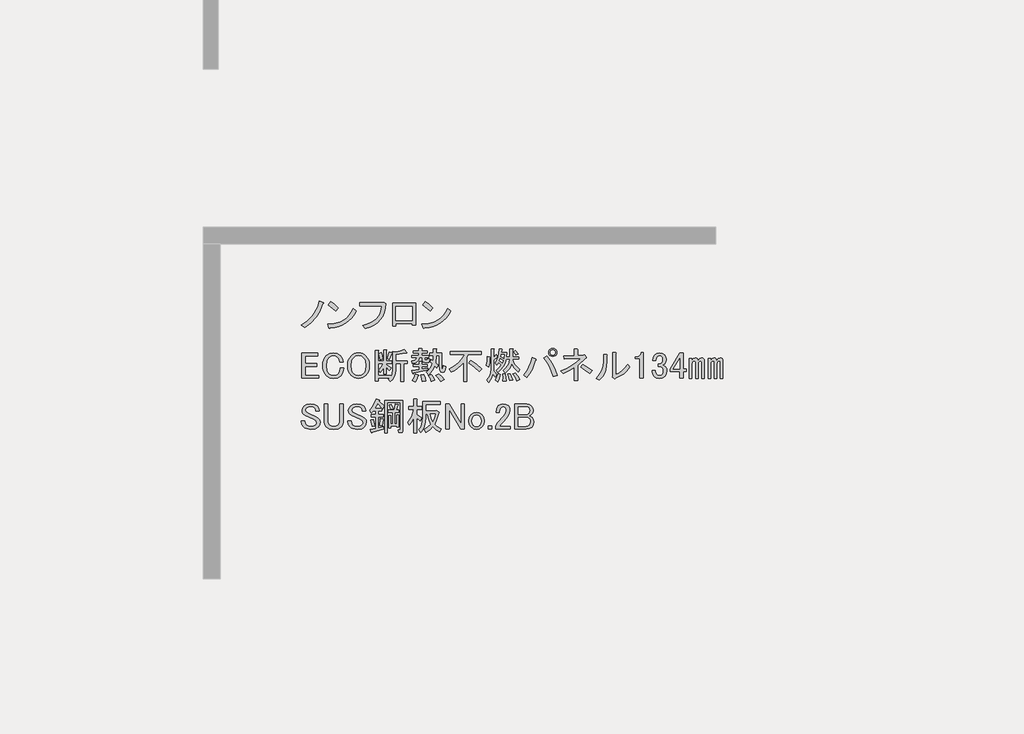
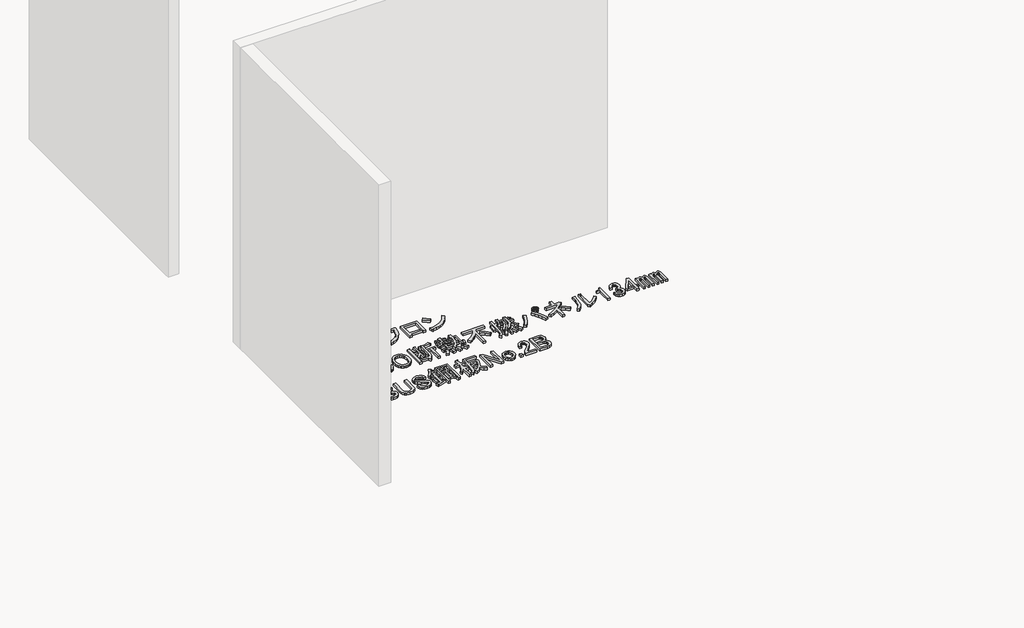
# One storey, part 56 of 117: 1 proxy.
"""IFC4 building model written with IfcOpenShell, lengths in millimetres."""

from ifc_helpers import new_model, si_unit, frame, origin, place, context, project, spatial, polyline, outline, extrude, element, save

model = new_model("IFC4")

# Units and contexts
model_context = context("Model", 3, world=origin())
ifc_project = project(units=[si_unit("LENGTHUNIT", "METRE", prefix="MILLI")], contexts=[model_context])

# Site, building, storey
site = spatial("IfcSite", under=ifc_project)
building = spatial("IfcBuilding", under=site)
storey = spatial("IfcBuildingStorey", under=building, Name="レベル 1", Elevation=500.0)

# Proxy
placement = place(None, origin())
element("IfcBuildingElementProxy", 1, Name="200㎜\u3000MS Pゴシック", ObjectType="200㎜\u3000MS Pゴシック", at=placement, inside=storey, context=model_context, shape_type="SweptSolid", body=[
    extrude(outline(polyline([(40940.1706985, -12603.5496882), (40914.5952502, -12663.3215225), (40886.146156, -12709.2998566), (40844.4782907, -12754.7034615), (40795.3389462, -12792.060858), (40767.7519457, -12770.2211493), (40815.4544673, -12739.7605029), (40855.1107805, -12701.2536481), (40872.4963381, -12677.3305462), (40887.8703435, -12649.2406577), (40901.2327969, -12616.9839827), (40912.5836981, -12580.5605212), (40943.6190736, -12594.3540214), (40946.7800841, -12598.9518548), (40940.1706985, -12603.5496882)])), frame((0.0, 0.0, 500.0), z_axis=(0.0, 0.0, 1.0), x_axis=(1.0, 0.0, 0.0)), (0.0, 0.0, 1.0), 25.0),
    extrude(outline(polyline([(41039.8977052, -12658.7236891), (40981.2753292, -12611.5958967), (41000.8161212, -12587.4572713), (41028.1157571, -12607.2854279), (41061.7374138, -12636.8839804), (41039.8977052, -12658.7236891)])), frame((0.0, 0.0, 500.0), z_axis=(0.0, 0.0, 1.0), x_axis=(1.0, 0.0, 0.0)), (0.0, 0.0, 1.0), 25.0),
    extrude(outline(polyline([(41201.9713328, -12658.7236891), (41185.447869, -12688.465924), (41166.3381239, -12714.4724192), (41144.6420975, -12736.7431748), (41120.3597898, -12755.2781907), (41093.4912008, -12770.077467), (41064.0363306, -12781.1410036), (41031.995179, -12788.4688006), (40997.3677461, -12792.060858), (40991.6204544, -12800.1070664), (40985.8731626, -12794.3597747), (40976.6774958, -12764.4738575), (41012.5082679, -12761.7977748), (41045.2857912, -12755.4937141), (41075.0100658, -12745.5616756), (41101.6810916, -12732.0016591), (41125.2988687, -12714.8136646), (41145.863397, -12693.9976923), (41163.3746766, -12669.553742), (41177.8327074, -12641.4818138), (41201.9713328, -12658.7236891)])), frame((0.0, 0.0, 500.0), z_axis=(0.0, 0.0, 1.0), x_axis=(1.0, 0.0, 0.0)), (0.0, 0.0, 1.0), 25.0),
    extrude(outline(polyline([(41252.7314136, -12773.6695243), (41286.514713, -12763.9889298), (41316.0234641, -12751.6142922), (41341.257667, -12736.5456116), (41362.2173217, -12718.782888), (41378.902428, -12698.3261214), (41391.3129862, -12675.1753118), (41399.4489961, -12649.3304591), (41403.3104577, -12620.7915635), (41230.8917049, -12620.7915635), (41230.8917049, -12595.5034798), (41405.6093744, -12595.5034798), (41421.7017914, -12592.0551047), (41434.3458332, -12603.5496882), (41430.825617, -12640.0449909), (41422.5638851, -12673.0919185), (41409.5606375, -12702.6904711), (41391.8158742, -12728.8406486), (41369.3295952, -12751.542451), (41342.1018005, -12770.7958784), (41310.1324901, -12786.6009308), (41273.421664, -12798.9576081), (41252.7314136, -12773.6695243)])), frame((0.0, 0.0, 500.0), z_axis=(0.0, 0.0, 1.0), x_axis=(1.0, 0.0, 0.0)), (0.0, 0.0, 1.0), 25.0),
    extrude(outline(polyline([(41667.455987, -12772.520066), (41641.0184449, -12772.520066), (41641.0184449, -12759.8760241), (41513.4285679, -12759.8760241), (41513.4285679, -12778.2673577), (41486.9910258, -12778.2673577), (41486.9910258, -12598.9518548), (41667.455987, -12598.9518548), (41667.455987, -12772.520066)]), holes=[polyline([(41513.4285679, -12624.2399386), (41513.4285679, -12734.5879404), (41641.0184449, -12734.5879404), (41641.0184449, -12624.2399386), (41513.4285679, -12624.2399386)])]), frame((0.0, 0.0, 500.0), z_axis=(0.0, 0.0, 1.0), x_axis=(1.0, 0.0, 0.0)), (0.0, 0.0, 1.0), 25.0),
    extrude(outline(polyline([(41943.5099049, -12658.7236891), (41926.9864411, -12688.465924), (41907.876696, -12714.4724192), (41886.1806696, -12736.7431748), (41861.8983619, -12755.2781907), (41835.0297729, -12770.077467), (41805.5749026, -12781.1410036), (41773.5337511, -12788.4688006), (41738.9063182, -12792.060858), (41733.1590264, -12800.1070664), (41727.4117347, -12794.3597747), (41718.2160679, -12764.4738575), (41754.0468399, -12761.7977748), (41786.8243633, -12755.4937141), (41816.5486378, -12745.5616756), (41843.2196637, -12732.0016591), (41866.8374407, -12714.8136646), (41887.4019691, -12693.9976923), (41904.9132486, -12669.553742), (41919.3712795, -12641.4818138), (41943.5099049, -12658.7236891)])), frame((0.0, 0.0, 500.0), z_axis=(0.0, 0.0, 1.0), x_axis=(1.0, 0.0, 0.0)), (0.0, 0.0, 1.0), 25.0),
    extrude(outline(polyline([(41781.4362772, -12658.7236891), (41722.8139013, -12611.5958967), (41742.3546933, -12587.4572713), (41769.6543291, -12607.2854279), (41803.2759859, -12636.8839804), (41781.4362772, -12658.7236891)])), frame((0.0, 0.0, 500.0), z_axis=(0.0, 0.0, 1.0), x_axis=(1.0, 0.0, 0.0)), (0.0, 0.0, 1.0), 25.0),
    extrude(outline(polyline([(40773.4992375, -12992.0551047), (40899.9396562, -12992.0551047), (40899.9396562, -13013.8948134), (40799.9367796, -13013.8948134), (40799.9367796, -13074.816106), (40893.0429061, -13074.816106), (40893.0429061, -13096.6558147), (40799.9367796, -13096.6558147), (40799.9367796, -13166.7727742), (40905.686948, -13166.7727742), (40905.686948, -13188.6124829), (40773.4992375, -13188.6124829), (40773.4992375, -12992.0551047)])), frame((0.0, 0.0, 500.0), z_axis=(0.0, 0.0, 1.0), x_axis=(1.0, 0.0, 0.0)), (0.0, 0.0, 1.0), 25.0),
    extrude(outline(polyline([(40937.7798252, -13090.908523), (40939.5758538, -13066.985421), (40944.9639399, -13045.7922827), (40953.9440832, -13027.3291079), (40966.516284, -13011.5958967), (40991.5170031, -12995.2161152), (41022.8397432, -12989.756188), (41053.5877541, -12994.641386), (41076.8642858, -13009.29698), (41092.6693381, -13032.8608762), (41098.7039944, -13062.1720642), (41071.116994, -13062.1720642), (41066.231796, -13040.9070847), (41056.1740354, -13025.3893969), (41040.9437123, -13015.0442717), (41022.8397432, -13011.5958967), (41003.2989512, -13015.6190009), (40986.0570759, -13027.6883136), (40977.0050914, -13039.3984206), (40970.5393882, -13053.8384911), (40965.3668256, -13090.908523), (40970.5393882, -13127.9785548), (40977.0050914, -13142.4186254), (40986.0570759, -13154.1287323), (41002.7242221, -13165.3359513), (41022.8397432, -13169.0716909), (41043.242629, -13165.9106804), (41058.4729521, -13156.427649), (41070.5422648, -13136.8868571), (41074.5653691, -13110.449315), (41102.1523695, -13110.449315), (41095.8303486, -13145.2204301), (41088.7899162, -13159.3731361), (41079.1632025, -13171.3706076), (41068.3151893, -13179.9197041), (41055.3119417, -13186.0262016), (41022.8397432, -13190.9113996), (40991.5170031, -13185.4514724), (40966.516284, -13169.0716909), (40953.9440832, -13153.4103209), (40944.9639399, -13135.1626695), (40939.5758538, -13114.3287369), (40937.7798252, -13090.908523)])), frame((0.0, 0.0, 500.0), z_axis=(0.0, 0.0, 1.0), x_axis=(1.0, 0.0, 0.0)), (0.0, 0.0, 1.0), 25.0),
    extrude(outline(polyline([(41133.1417667, -13089.7590646), (41134.8659542, -13066.9135799), (41140.0385168, -13046.6543764), (41148.6594544, -13028.9814543), (41160.7287671, -13013.8948134), (41173.4446501, -13003.3341648), (41187.4536738, -12995.7908443), (41202.7558381, -12991.2648521), (41219.3511431, -12989.756188), (41235.946448, -12991.2648521), (41251.2486123, -12995.7908443), (41265.257636, -13003.3341648), (41277.973519, -13013.8948134), (41290.0428317, -13028.9814543), (41298.6637694, -13046.6543764), (41303.836332, -13066.9135799), (41305.5605195, -13089.7590646), (41303.836332, -13112.6045494), (41298.6637694, -13132.8637528), (41290.0428317, -13150.536675), (41277.973519, -13165.6233159), (41265.257636, -13176.1839645), (41251.2486123, -13183.7272849), (41235.946448, -13188.2532772), (41219.3511431, -13189.7619413), (41202.7558381, -13188.2532772), (41187.4536738, -13183.7272849), (41173.4446501, -13176.1839645), (41160.7287671, -13165.6233159), (41148.6594544, -13150.536675), (41140.0385168, -13132.8637528), (41134.8659542, -13112.6045494), (41133.1417667, -13089.7590646)]), holes=[polyline([(41219.3511431, -13011.5958967), (41198.6608927, -13015.9063655), (41180.2695591, -13028.837772), (41171.7204626, -13039.9731498), (41165.6139651, -13053.8384911), (41160.7287671, -13089.7590646), (41165.6139651, -13125.6796381), (41171.7204626, -13139.5449795), (41180.2695591, -13150.6803573), (41198.6608927, -13163.6117637), (41219.3511431, -13167.9222326), (41240.0413934, -13163.6117637), (41258.432727, -13150.6803573), (41266.9818235, -13139.5449795), (41273.088321, -13125.6796381), (41277.973519, -13089.7590646), (41273.088321, -13053.8384911), (41266.9818235, -13039.9731498), (41258.432727, -13028.837772), (41240.0413934, -13015.9063655), (41219.3511431, -13011.5958967)])]), frame((0.0, 0.0, 500.0), z_axis=(0.0, 0.0, 1.0), x_axis=(1.0, 0.0, 0.0)), (0.0, 0.0, 1.0), 25.0),
    extrude(outline(polyline([(41444.3691101, -13035.7345221), (41461.6109854, -12982.8594379), (41482.3012357, -12988.6067296), (41484.0254232, -12991.7677401), (41480.002319, -12994.3540214), (41462.7604437, -13042.6312722), (41444.3691101, -13035.7345221)])), frame((0.0, 0.0, 500.0), z_axis=(0.0, 0.0, 1.0), x_axis=(1.0, 0.0, 0.0)), (0.0, 0.0, 1.0), 25.0),
    extrude(outline(polyline([(41598.3965292, -12987.4572713), (41596.6723417, -12992.0551047), (41589.2008624, -12989.756188), (41512.1871528, -13002.4002299), (41512.1871528, -13051.826939), (41604.143821, -13051.826939), (41604.143821, -13073.6666477), (41573.1084455, -13073.6666477), (41573.1084455, -13213.9005666), (41550.1192785, -13213.9005666), (41550.1192785, -13073.6666477), (41512.1871528, -13073.6666477), (41512.1871528, -13123.0933568), (41509.6008716, -13150.8958807), (41501.8420277, -13175.6810764), (41488.9106212, -13197.448944), (41470.8066522, -13216.1994833), (41453.5647769, -13196.6586914), (41463.9099021, -13187.4630245), (41374.2521506, -13187.4630245), (41374.2521506, -13209.3027332), (41351.2629836, -13209.3027332), (41351.2629836, -12970.215396), (41373.1026922, -12970.215396), (41377.9878902, -12972.5143127), (41374.2521506, -12977.1121461), (41374.2521506, -13052.9763974), (41416.7821096, -13052.9763974), (41416.7821096, -12965.6175626), (41435.1734433, -12965.6175626), (41440.0586413, -12967.9164793), (41436.3229016, -12972.5143127), (41436.3229016, -13052.9763974), (41480.002319, -13052.9763974), (41480.002319, -13071.367731), (41436.3229016, -13071.367731), (41436.3229016, -13080.5633978), (41476.5539439, -13107.0009399), (41462.7604437, -13128.8406486), (41436.3229016, -13102.4031065), (41436.3229016, -13155.2781907), (41416.7821096, -13155.2781907), (41416.7821096, -13107.0009399), (41403.5633386, -13126.8290965), (41389.1951092, -13142.6341488), (41376.5510673, -13124.2428152), (41398.390776, -13100.1041898), (41415.6326513, -13071.367731), (41374.2521506, -13071.367731), (41374.2521506, -13165.6233159), (41471.9561105, -13165.6233159), (41471.9561105, -13179.4168161), (41484.887517, -13155.2781907), (41489.1979858, -13121.9438985), (41489.1979858, -12977.1121461), (41511.0376945, -12982.8594379), (41547.2456326, -12975.3879586), (41577.7062789, -12962.1691875), (41598.3965292, -12987.4572713)])), frame((0.0, 0.0, 500.0), z_axis=(0.0, 0.0, 1.0), x_axis=(1.0, 0.0, 0.0)), (0.0, 0.0, 1.0), 25.0),
    extrude(outline(polyline([(41390.3445675, -13043.7807305), (41377.7005257, -12993.2045631), (41397.2413176, -12986.3078129), (41405.0001615, -13010.4464383), (41409.8853595, -13036.8839804), (41390.3445675, -13043.7807305)])), frame((0.0, 0.0, 500.0), z_axis=(0.0, 0.0, 1.0), x_axis=(1.0, 0.0, 0.0)), (0.0, 0.0, 1.0), 25.0),
    extrude(outline(polyline([(41734.0326148, -13159.8760241), (41744.0903754, -13187.17566), (41748.9755734, -13209.3027332), (41720.2391146, -13215.050025), (41717.6528333, -13193.4976809), (41709.8939894, -13163.3243992), (41734.0326148, -13159.8760241)])), frame((0.0, 0.0, 500.0), z_axis=(0.0, 0.0, 1.0), x_axis=(1.0, 0.0, 0.0)), (0.0, 0.0, 1.0), 25.0),
    extrude(outline(polyline([(41790.356074, -13212.7511083), (41782.022501, -13188.0377537), (41768.5163654, -13166.7727742), (41789.2066157, -13158.7265657), (41806.1611264, -13180.2789098), (41817.9430745, -13203.5554415), (41790.356074, -13212.7511083)])), frame((0.0, 0.0, 500.0), z_axis=(0.0, 0.0, 1.0), x_axis=(1.0, 0.0, 0.0)), (0.0, 0.0, 1.0), 25.0),
    extrude(outline(polyline([(41689.2037391, -13164.4738575), (41692.6521141, -13169.3590555), (41686.9048224, -13172.520066), (41677.1344264, -13198.0955143), (41666.214572, -13217.3489417), (41643.225405, -13205.8543582), (41655.8694469, -13182.290462), (41666.214572, -13155.2781907), (41689.2037391, -13164.4738575)])), frame((0.0, 0.0, 500.0), z_axis=(0.0, 0.0, 1.0), x_axis=(1.0, 0.0, 0.0)), (0.0, 0.0, 1.0), 25.0),
    extrude(outline(polyline([(41721.3885729, -13027.6883136), (41696.1004892, -13027.6883136), (41691.5026558, -13045.1457123), (41681.1575306, -13058.4363245), (41665.0651137, -13067.5601502), (41643.225405, -13072.5171893), (41638.6275716, -13052.9763974), (41663.9156553, -13044.3554597), (41671.3871346, -13037.0276627), (41675.4102388, -13027.6883136), (41639.7770299, -13027.6883136), (41639.7770299, -13009.29698), (41693.8015725, -13009.29698), (41693.8015725, -12992.0551047), (41650.1221551, -12992.0551047), (41650.1221551, -12973.6637711), (41693.8015725, -12973.6637711), (41693.8015725, -12955.2724374), (41715.6412812, -12955.2724374), (41720.5264792, -12957.5713541), (41716.7907395, -12962.1691875), (41716.7907395, -12973.6637711), (41759.3206985, -12973.6637711), (41759.3206985, -12992.0551047), (41716.7907395, -12992.0551047), (41716.7907395, -13009.29698), (41769.6658237, -13009.29698), (41769.6658237, -13027.6883136), (41740.9293649, -13027.6883136), (41740.9293649, -13040.3323555), (41742.3661878, -13045.5049181), (41746.6766567, -13047.2291056), (41757.0217818, -13047.2291056), (41760.7575215, -13044.0680951), (41760.4701569, -13034.5850637), (41780.0109489, -13036.8839804), (41777.137303, -13058.4363245), (41771.8210581, -13063.8244106), (41763.9185319, -13065.6204392), (41739.7799066, -13065.6204392), (41725.9864063, -13060.7352412), (41721.3885729, -13046.0796472), (41721.3885729, -13027.6883136)])), frame((0.0, 0.0, 500.0), z_axis=(0.0, 0.0, 1.0), x_axis=(1.0, 0.0, 0.0)), (0.0, 0.0, 1.0), 25.0),
    extrude(outline(polyline([(41852.4268251, -13010.4464383), (41830.5871164, -13010.4464383), (41825.989283, -13067.9193559), (41845.5300749, -13086.3106896), (41835.1849498, -13108.1503983), (41819.0925328, -13092.0579813), (41799.8391054, -13129.7027424), (41769.6658237, -13162.1749408), (41752.4239484, -13141.4846905), (41767.5105893, -13129.5590601), (41780.585678, -13114.4724192), (41791.6492147, -13096.2247679), (41800.7011992, -13074.816106), (41783.4593239, -13059.8731475), (41791.5055324, -13042.6312722), (41805.2990326, -13052.9763974), (41807.5979493, -13010.4464383), (41780.0109489, -13010.4464383), (41780.0109489, -12992.0551047), (41807.5979493, -12992.0551047), (41807.5979493, -12957.5713541), (41829.437658, -12957.5713541), (41834.322856, -12959.8702708), (41830.5871164, -12964.4681043), (41830.5871164, -12992.0551047), (41871.967617, -12992.0551047), (41871.967617, -13088.6096063), (41875.4159921, -13112.7482317), (41878.6488437, -13114.7597838), (41881.4506484, -13111.5987733), (41885.7611173, -13089.7590646), (41905.3019092, -13096.6558147), (41900.775917, -13123.4525626), (41892.945232, -13139.4731384), (41881.8098542, -13144.7175421), (41867.3697836, -13139.1857738), (41860.8322393, -13131.8579768), (41856.1625647, -13120.219711), (41852.4268251, -13084.0117729), (41852.4268251, -13010.4464383)])), frame((0.0, 0.0, 500.0), z_axis=(0.0, 0.0, 1.0), x_axis=(1.0, 0.0, 0.0)), (0.0, 0.0, 1.0), 25.0),
    extrude(outline(polyline([(41651.2716134, -13149.5308989), (41649.2600613, -13154.4160969), (41645.5243217, -13152.979274), (41639.7770299, -13128.8406486), (41694.9510308, -13120.7944401), (41694.9510308, -13097.8052731), (41651.2716134, -13097.8052731), (41651.2716134, -13079.4139395), (41694.9510308, -13079.4139395), (41694.9510308, -13056.4247724), (41713.3423645, -13056.4247724), (41718.2275625, -13058.7236891), (41714.4918228, -13063.3215225), (41714.4918228, -13079.4139395), (41759.3206985, -13079.4139395), (41759.3206985, -13097.8052731), (41714.4918228, -13097.8052731), (41714.4918228, -13117.3460651), (41765.0679903, -13108.1503983), (41765.0679903, -13124.2428152), (41651.2716134, -13149.5308989)])), frame((0.0, 0.0, 500.0), z_axis=(0.0, 0.0, 1.0), x_axis=(1.0, 0.0, 0.0)), (0.0, 0.0, 1.0), 25.0),
    extrude(outline(polyline([(41848.97845, -13154.1287323), (41873.6918046, -13175.3937119), (41892.6578674, -13200.1070664), (41866.2203253, -13215.050025), (41846.9668979, -13185.4514724), (41828.2881997, -13165.6233159), (41848.97845, -13154.1287323)])), frame((0.0, 0.0, 500.0), z_axis=(0.0, 0.0, 1.0), x_axis=(1.0, 0.0, 0.0)), (0.0, 0.0, 1.0), 25.0),
    extrude(outline(polyline([(42167.3784135, -13138.0363154), (42128.2968295, -13099.8168252), (42086.9163289, -13070.2182726), (42103.0087458, -13049.5280223), (42146.6881632, -13077.6897519), (42188.0686638, -13116.1966067), (42167.3784135, -13138.0363154)])), frame((0.0, 0.0, 500.0), z_axis=(0.0, 0.0, 1.0), x_axis=(1.0, 0.0, 0.0)), (0.0, 0.0, 1.0), 25.0),
    extrude(outline(polyline([(41940.9351182, -12977.1121461), (42182.3213721, -12977.1121461), (42182.3213721, -13002.4002299), (42082.3184955, -13002.4002299), (42071.9733703, -13026.5388553), (42071.9733703, -13212.7511083), (42045.5358282, -13212.7511083), (42045.5358282, -13065.6204392), (42024.7018956, -13088.8969709), (42001.2816816, -13109.2998566), (41975.2751864, -13126.8290965), (41946.6824099, -13141.4846905), (41930.589993, -13115.0471484), (41970.174465, -13094.6442626), (42003.8679629, -13069.0688143), (42031.6704868, -13038.3208034), (42053.5820367, -13002.4002299), (41940.9351182, -13002.4002299), (41940.9351182, -12977.1121461)])), frame((0.0, 0.0, 500.0), z_axis=(0.0, 0.0, 1.0), x_axis=(1.0, 0.0, 0.0)), (0.0, 0.0, 1.0), 25.0),
    extrude(outline(polyline([(42354.7401249, -13211.6016499), (42355.3148541, -13184.5893787), (42352.4412082, -13156.427649), (42371.9820002, -13155.2781907), (42378.3040211, -13181.4283682), (42378.8787503, -13209.3027332), (42354.7401249, -13211.6016499)])), frame((0.0, 0.0, 500.0), z_axis=(0.0, 0.0, 1.0), x_axis=(1.0, 0.0, 0.0)), (0.0, 0.0, 1.0), 25.0),
    extrude(outline(polyline([(42335.1993329, -13159.8760241), (42326.5783953, -13190.3366704), (42312.2101659, -13217.3489417), (42292.6693739, -13204.7048998), (42306.7502387, -13179.9915453), (42316.8079993, -13151.8298156), (42335.1993329, -13159.8760241)])), frame((0.0, 0.0, 500.0), z_axis=(0.0, 0.0, 1.0), x_axis=(1.0, 0.0, 0.0)), (0.0, 0.0, 1.0), 25.0),
    extrude(outline(polyline([(42250.1394149, -13021.9410219), (42254.7372483, -13024.2399386), (42250.1394149, -13028.837772), (42248.9899565, -13068.4940851), (42243.2426647, -13102.4031065), (42224.8513311, -13089.7590646), (42230.5986229, -13055.2753141), (42231.7480812, -13018.4926468), (42250.1394149, -13021.9410219)])), frame((0.0, 0.0, 500.0), z_axis=(0.0, 0.0, 1.0), x_axis=(1.0, 0.0, 0.0)), (0.0, 0.0, 1.0), 25.0),
    extrude(outline(polyline([(42301.8650407, -13003.5496882), (42311.0607075, -13020.7915635), (42312.4975305, -13026.8262199), (42307.6123325, -13026.5388553), (42281.1747904, -13047.2291056), (42281.1747904, -13131.1395653), (42294.9682906, -13143.4962426), (42306.4628741, -13159.8760241), (42293.8188322, -13180.5662744), (42275.4274986, -13155.2781907), (42263.6455505, -13191.1987642), (42242.0932064, -13220.7973168), (42227.1502478, -13202.4059831), (42242.2368887, -13183.6554438), (42253.0130607, -13163.0370346), (42259.478764, -13140.5507556), (42261.6339984, -13116.1966067), (42261.6339984, -12958.7208125), (42280.025332, -12958.7208125), (42284.91053, -12961.0197292), (42281.1747904, -12965.6175626), (42281.1747904, -13024.2399386), (42301.8650407, -13003.5496882)])), frame((0.0, 0.0, 500.0), z_axis=(0.0, 0.0, 1.0), x_axis=(1.0, 0.0, 0.0)), (0.0, 0.0, 1.0), 25.0),
    extrude(outline(polyline([(42452.4440848, -12972.5143127), (42474.2837935, -12996.6529381), (42457.0419182, -13008.1475216), (42450.4325327, -12996.6529381), (42437.5011262, -12982.8594379), (42452.4440848, -12972.5143127)])), frame((0.0, 0.0, 500.0), z_axis=(0.0, 0.0, 1.0), x_axis=(1.0, 0.0, 0.0)), (0.0, 0.0, 1.0), 25.0),
    extrude(outline(polyline([(42462.78921, -13209.3027332), (42449.5704389, -13181.1410036), (42432.9032928, -13156.427649), (42451.2946265, -13148.3814406), (42470.2606893, -13171.3706076), (42485.778377, -13198.9576081), (42462.78921, -13209.3027332)])), frame((0.0, 0.0, 500.0), z_axis=(0.0, 0.0, 1.0), x_axis=(1.0, 0.0, 0.0)), (0.0, 0.0, 1.0), 25.0),
    extrude(outline(polyline([(42413.3625008, -13154.1287323), (42431.7538345, -13203.5554415), (42407.6152091, -13208.1532749), (42393.8217089, -13157.5771074), (42413.3625008, -13154.1287323)])), frame((0.0, 0.0, 500.0), z_axis=(0.0, 0.0, 1.0), x_axis=(1.0, 0.0, 0.0)), (0.0, 0.0, 1.0), 25.0),
    extrude(outline(polyline([(42474.2837935, -13139.1857738), (42443.5357826, -13108.7251274), (42422.5581677, -13074.816106), (42414.1527535, -13096.9431793), (42402.7300111, -13116.1966067), (42388.2899405, -13132.5763882), (42370.8325418, -13146.0825239), (42357.0390416, -13127.6911902), (42377.8729742, -13108.7969686), (42393.2469797, -13087.7475125), (42403.161058, -13064.542822), (42407.6152091, -13039.1828971), (42378.8787503, -13039.1828971), (42370.904383, -13069.7872258), (42357.3264062, -13097.2305439), (42338.1448199, -13121.5128516), (42313.3596242, -13142.6341488), (42300.7155823, -13126.5417319), (42326.5783953, -13104.9893878), (42342.096083, -13084.0117729), (42320.2563743, -13064.4709809), (42306.4628741, -13085.1612312), (42292.6693739, -13070.2182726), (42305.0978923, -13051.1803687), (42314.7964472, -13026.2514907), (42321.7650384, -12995.4316386), (42326.0036661, -12958.7208125), (42346.6939164, -12961.0197292), (42350.1422915, -12963.6060105), (42344.3949997, -12966.767021), (42342.096083, -12985.1583546), (42385.7755004, -12985.1583546), (42382.3271253, -13020.7915635), (42407.6152091, -13020.7915635), (42407.6152091, -12958.7208125), (42429.4549178, -12958.7208125), (42434.3401158, -12961.0197292), (42430.6043761, -12965.6175626), (42430.6043761, -13020.7915635), (42480.0310853, -13020.7915635), (42480.0310853, -13039.1828971), (42430.6043761, -13039.1828971), (42437.1419205, -13060.9507647), (42448.7083452, -13081.4254916), (42465.3036501, -13100.6070778), (42486.9278354, -13118.4955234), (42474.2837935, -13139.1857738)]), holes=[polyline([(42350.1422915, -13069.0688143), (42357.0390416, -13049.5280223), (42331.7509579, -13033.4356054), (42326.0036661, -13050.6774807), (42350.1422915, -13069.0688143)]), polyline([(42339.7971663, -13003.5496882), (42336.3487913, -13019.6421052), (42361.636875, -13033.4356054), (42366.2347084, -13003.5496882), (42339.7971663, -13003.5496882)])]), frame((0.0, 0.0, 500.0), z_axis=(0.0, 0.0, 1.0), x_axis=(1.0, 0.0, 0.0)), (0.0, 0.0, 1.0), 25.0),
    extrude(outline(polyline([(42699.5776305, -13012.745355), (42726.230696, -13049.4561812), (42748.7169751, -13087.1727833), (42767.0364675, -13125.8951616), (42781.1891735, -13165.6233159), (42750.153798, -13175.968441), (42734.7079514, -13132.8637528), (42717.1068704, -13094.356898), (42697.3505549, -13060.4478766), (42675.4390051, -13031.1366887), (42699.5776305, -13012.745355)])), frame((0.0, 0.0, 500.0), z_axis=(0.0, 0.0, 1.0), x_axis=(1.0, 0.0, 0.0)), (0.0, 0.0, 1.0), 25.0),
    extrude(outline(polyline([(42612.2187958, -13039.1828971), (42616.2419, -13044.6428243), (42609.919879, -13049.5280223), (42597.9942486, -13084.9457078), (42582.9076078, -13118.782888), (42564.6599564, -13151.039563), (42543.2512946, -13181.7157328), (42516.8137525, -13164.4738575), (42540.018443, -13133.0074351), (42559.056347, -13099.5294606), (42573.9274644, -13064.039934), (42584.6317953, -13026.5388553), (42612.2187958, -13039.1828971)])), frame((0.0, 0.0, 500.0), z_axis=(0.0, 0.0, 1.0), x_axis=(1.0, 0.0, 0.0)), (0.0, 0.0, 1.0), 25.0),
    extrude(outline(polyline([(42745.5559646, -13018.4926468), (42732.9119227, -13016.1937301), (42722.5667975, -13009.29698), (42715.6700474, -12998.9518548), (42713.3711307, -12986.3078129), (42715.6700474, -12973.6637711), (42722.5667975, -12963.3186459), (42732.9119227, -12956.4218958), (42745.5559646, -12954.1229791), (42758.2000065, -12956.4218958), (42768.5451316, -12963.3186459), (42775.4418817, -12973.6637711), (42777.7407984, -12986.3078129), (42775.4418817, -12998.9518548), (42768.5451316, -13009.29698), (42758.2000065, -13016.1937301), (42745.5559646, -13018.4926468)]), holes=[polyline([(42745.5559646, -13006.9980633), (42753.8895376, -13005.5612403), (42760.4989232, -13001.2507715), (42764.809392, -12994.641386), (42766.2462149, -12986.3078129), (42764.809392, -12977.9742399), (42760.4989232, -12971.3648544), (42753.8895376, -12967.0543855), (42745.5559646, -12965.6175626), (42737.2223915, -12967.0543855), (42730.613006, -12971.3648544), (42726.3025372, -12977.9742399), (42724.8657143, -12986.3078129), (42726.3025372, -12994.641386), (42730.613006, -13001.2507715), (42737.2223915, -13005.5612403), (42745.5559646, -13006.9980633)])]), frame((0.0, 0.0, 500.0), z_axis=(0.0, 0.0, 1.0), x_axis=(1.0, 0.0, 0.0)), (0.0, 0.0, 1.0), 25.0),
    extrude(outline(polyline([(42989.2411352, -13008.1475216), (42996.1378853, -13005.8486049), (43008.7819272, -13023.0904802), (43009.9313856, -13029.1251366), (43004.1840938, -13031.1366887), (42940.9638844, -13087.4601479), (42940.9638844, -13208.1532749), (42914.5263423, -13208.1532749), (42914.5263423, -13105.8514816), (42874.2953, -13129.9901069), (42829.4664243, -13151.8298156), (42809.9256323, -13131.1395653), (42855.4729195, -13111.6706145), (42896.7097379, -13088.8969709), (42933.6360874, -13062.8186345), (42966.2519682, -13033.4356054), (42836.3631744, -13039.1828971), (42832.9147993, -13013.8948134), (42914.5263423, -13011.5958967), (42914.5263423, -12959.8702708), (42937.5155094, -12959.8702708), (42943.5501657, -12963.3186459), (42940.9638844, -12969.0659377), (42940.9638844, -13010.4464383), (42989.2411352, -13008.1475216)])), frame((0.0, 0.0, 500.0), z_axis=(0.0, 0.0, 1.0), x_axis=(1.0, 0.0, 0.0)), (0.0, 0.0, 1.0), 25.0),
    extrude(outline(polyline([(43035.2194693, -13151.8298156), (42998.1494375, -13122.5186277), (42965.1025098, -13101.2536481), (42982.3443851, -13079.4139395), (43021.1386045, -13102.6904711), (43054.7602613, -13128.8406486), (43035.2194693, -13151.8298156)])), frame((0.0, 0.0, 500.0), z_axis=(0.0, 0.0, 1.0), x_axis=(1.0, 0.0, 0.0)), (0.0, 0.0, 1.0), 25.0),
    extrude(outline(polyline([(43242.2139293, -13158.7265657), (43266.9991251, -13146.5135708), (43290.7785447, -13129.4153778), (43313.5521883, -13107.4319868), (43335.3200559, -13080.5633978), (43351.4124728, -13102.4031065), (43328.1359412, -13130.2056304), (43301.9857636, -13153.8413678), (43272.9619403, -13173.3103186), (43241.064471, -13188.6124829), (43231.8688042, -13193.2103163), (43213.4774705, -13179.4168161), (43215.7763872, -13173.6695243), (43215.7763872, -12988.6067296), (43239.9150126, -12988.6067296), (43245.6623044, -12992.0551047), (43242.2139293, -12997.8023965), (43242.2139293, -13158.7265657)])), frame((0.0, 0.0, 500.0), z_axis=(0.0, 0.0, 1.0), x_axis=(1.0, 0.0, 0.0)), (0.0, 0.0, 1.0), 25.0),
    extrude(outline(polyline([(43088.1865102, -13189.7619413), (43113.3309116, -13160.5225944), (43131.2911984, -13127.9785548), (43142.0673704, -13092.1298225), (43145.6594278, -13052.9763974), (43145.6594278, -13001.2507715), (43169.7980532, -13001.2507715), (43175.5453449, -13004.6991466), (43172.0969699, -13010.4464383), (43172.0969699, -13051.826939), (43168.2893891, -13097.5897496), (43156.8666467, -13138.32368), (43137.8287427, -13174.0287301), (43111.1756772, -13204.7048998), (43088.1865102, -13189.7619413)])), frame((0.0, 0.0, 500.0), z_axis=(0.0, 0.0, 1.0), x_axis=(1.0, 0.0, 0.0)), (0.0, 0.0, 1.0), 25.0),
    extrude(outline(polyline([(43430.7250991, -13011.5958967), (43438.7713075, -13000.6760423), (43442.2196826, -12988.6067296), (43456.0131828, -12988.6067296), (43456.0131828, -13187.4630245), (43429.5756407, -13187.4630245), (43429.5756407, -13034.5850637), (43395.0918902, -13034.5850637), (43395.0918902, -13020.7915635), (43405.4370153, -13020.7915635), (43419.8052447, -13018.4926468), (43430.7250991, -13011.5958967)])), frame((0.0, 0.0, 500.0), z_axis=(0.0, 0.0, 1.0), x_axis=(1.0, 0.0, 0.0)), (0.0, 0.0, 1.0), 25.0),
    extrude(outline(polyline([(43530.7279757, -13048.378564), (43535.0384445, -13024.2399386), (43547.969851, -13004.6991466), (43564.6369971, -12993.4919276), (43584.7525182, -12989.756188), (43607.4543207, -12993.4919276), (43624.9835606, -13004.6991466), (43635.3286857, -13020.7915635), (43638.7770608, -13041.4818138), (43635.9034149, -13061.597335), (43627.2824773, -13075.9655644), (43618.9489042, -13082.2875853), (43610.040602, -13085.1612312), (43629.581394, -13096.6558147), (43639.9265191, -13112.7482317), (43643.3748942, -13133.438482), (43639.35179, -13156.427649), (43627.2824773, -13174.8189827), (43608.0290499, -13186.8882954), (43582.4536015, -13190.9113996), (43560.3265283, -13186.8882954), (43542.2225592, -13174.8189827), (43530.1532465, -13157.2897428), (43526.1301423, -13136.8868571), (43526.1301423, -13127.6911902), (43552.5676844, -13127.6911902), (43552.5676844, -13135.7373987), (43555.1539657, -13149.5308989), (43562.9128096, -13161.0254825), (43571.8211118, -13167.0601388), (43582.4536015, -13169.0716909), (43595.9597372, -13166.7727742), (43606.5922269, -13159.8760241), (43613.488977, -13148.094076), (43615.7878938, -13131.1395653), (43613.488977, -13116.7713359), (43606.5922269, -13105.8514816), (43596.8218309, -13098.9547314), (43585.9019766, -13096.6558147), (43576.7063098, -13096.6558147), (43576.7063098, -13077.1150228), (43583.6030599, -13077.1150228), (43593.6608205, -13074.816106), (43603.1438519, -13067.9193559), (43610.040602, -13056.712137), (43612.3395187, -13041.4818138), (43610.040602, -13027.9756782), (43603.1438519, -13017.3431884), (43595.0976434, -13012.1706259), (43584.7525182, -13010.4464383), (43574.9821223, -13012.4579905), (43566.3611846, -13018.4926468), (43559.1770699, -13030.5619595), (43556.0160594, -13048.378564), (43530.7279757, -13048.378564)])), frame((0.0, 0.0, 500.0), z_axis=(0.0, 0.0, 1.0), x_axis=(1.0, 0.0, 0.0)), (0.0, 0.0, 1.0), 25.0),
    extrude(outline(polyline([(43745.6766875, -12989.756188), (43772.1142296, -12989.756188), (43772.1142296, -13116.1966067), (43796.252855, -13116.1966067), (43796.252855, -13138.0363154), (43772.1142296, -13138.0363154), (43772.1142296, -13188.6124829), (43745.6766875, -13188.6124829), (43745.6766875, -13138.0363154), (43668.6629779, -13138.0363154), (43668.6629779, -13115.0471484), (43745.6766875, -12989.756188)]), holes=[polyline([(43745.6766875, -13032.286147), (43693.9510617, -13116.1966067), (43745.6766875, -13116.1966067), (43745.6766875, -13032.286147)])]), frame((0.0, 0.0, 500.0), z_axis=(0.0, 0.0, 1.0), x_axis=(1.0, 0.0, 0.0)), (0.0, 0.0, 1.0), 25.0),
    extrude(outline(polyline([(43839.9322724, -13189.7619413), (43820.3914804, -13189.7619413), (43820.3914804, -13032.286147), (43839.9322724, -13032.286147), (43839.9322724, -13049.5280223), (43852.0015851, -13034.0103346), (43865.2203561, -13028.837772), (43874.416023, -13030.2745949), (43881.3127731, -13034.5850637), (43888.2095232, -13048.378564), (43901.1409296, -13033.72297), (43914.6470653, -13028.837772), (43922.9806383, -13030.2745949), (43929.5900239, -13034.5850637), (43934.7625864, -13043.2060014), (43936.486774, -13055.2753141), (43936.486774, -13189.7619413), (43916.945982, -13189.7619413), (43916.945982, -13065.6204392), (43914.3597007, -13056.1374078), (43906.6008568, -13052.9763974), (43896.2557317, -13057.5742308), (43890.2210753, -13066.1951684), (43888.2095232, -13075.9655644), (43888.2095232, -13189.7619413), (43868.6687312, -13189.7619413), (43868.6687312, -13065.6204392), (43866.0824499, -13056.1374078), (43858.323606, -13052.9763974), (43847.9784809, -13057.5742308), (43841.9438245, -13066.1951684), (43839.9322724, -13075.9655644), (43839.9322724, -13189.7619413)])), frame((0.0, 0.0, 500.0), z_axis=(0.0, 0.0, 1.0), x_axis=(1.0, 0.0, 0.0)), (0.0, 0.0, 1.0), 25.0),
    extrude(outline(polyline([(44061.7777343, -13028.837772), (44070.1113074, -13030.2745949), (44076.7206929, -13034.5850637), (44081.8932555, -13043.2060014), (44083.617443, -13055.2753141), (44083.617443, -13189.7619413), (44064.0766511, -13189.7619413), (44064.0766511, -13065.6204392), (44061.4903698, -13056.1374078), (44053.7315259, -13052.9763974), (44043.3864007, -13057.5742308), (44037.3517444, -13066.1951684), (44035.3401922, -13075.9655644), (44035.3401922, -13189.7619413), (44015.7994003, -13189.7619413), (44015.7994003, -13065.6204392), (44013.213119, -13056.1374078), (44005.4542751, -13052.9763974), (43995.1091499, -13057.5742308), (43989.0744936, -13066.1951684), (43987.0629415, -13075.9655644), (43987.0629415, -13189.7619413), (43967.5221495, -13189.7619413), (43967.5221495, -13032.286147), (43987.0629415, -13032.286147), (43987.0629415, -13049.5280223), (43999.1322542, -13034.0103346), (44012.3510252, -13028.837772), (44021.546692, -13030.2745949), (44028.4434421, -13034.5850637), (44035.3401922, -13048.378564), (44048.2715987, -13033.72297), (44061.7777343, -13028.837772)])), frame((0.0, 0.0, 500.0), z_axis=(0.0, 0.0, 1.0), x_axis=(1.0, 0.0, 0.0)), (0.0, 0.0, 1.0), 25.0),
    extrude(outline(polyline([(40775.7981542, -13443.7807305), (40779.8212584, -13423.3778448), (40791.8905711, -13405.8486049), (40812.2934569, -13393.7792922), (40841.3172803, -13389.756188), (40872.6400204, -13394.3540214), (40895.3418228, -13408.1475216), (40907.4111355, -13425.6767615), (40911.4342397, -13446.0796472), (40884.9966976, -13446.0796472), (40882.6977809, -13433.4356054), (40875.8010308, -13423.0904802), (40862.5822598, -13415.3316363), (40843.616197, -13412.745355), (40823.2133112, -13415.0442717), (40810.2819048, -13421.9410219), (40804.2472484, -13430.5619595), (40802.2356963, -13440.3323555), (40806.8335297, -13455.2753141), (40827.52378, -13466.7698976), (40887.2956143, -13493.2074397), (40904.5374896, -13504.7020232), (40914.020521, -13518.4955234), (40917.1815315, -13534.5879404), (40913.1584273, -13555.8529199), (40901.0891146, -13573.6695243), (40891.1031951, -13581.2128448), (40878.3873121, -13586.6009308), (40844.7656553, -13590.9113996), (40811.1439985, -13585.738837), (40797.5660217, -13579.2731338), (40786.1432794, -13570.2211493), (40774.9360604, -13551.8298156), (40771.2003208, -13526.5417319), (40797.6378629, -13526.5417319), (40799.9367796, -13544.3583363), (40806.8335297, -13556.427649), (40822.9259466, -13565.9106804), (40845.9151137, -13569.0716909), (40866.8927286, -13566.198045), (40881.5483226, -13557.5771074), (40888.4450727, -13548.3814406), (40890.7439894, -13539.1857738), (40889.0198019, -13529.7027424), (40883.8472393, -13521.9438985), (40865.4559057, -13510.449315), (40835.5699885, -13496.6558147), (40802.2356963, -13481.7128562), (40786.1432794, -13471.367731), (40778.3844355, -13459.2984183), (40775.7981542, -13443.7807305)])), frame((0.0, 0.0, 500.0), z_axis=(0.0, 0.0, 1.0), x_axis=(1.0, 0.0, 0.0)), (0.0, 0.0, 1.0), 25.0),
    extrude(outline(polyline([(40951.2054987, -13392.0551047), (40977.6430408, -13392.0551047), (40977.6430408, -13529.9901069), (40980.2293221, -13544.6457009), (40987.988166, -13556.427649), (41003.5058537, -13565.9106804), (41024.7708332, -13569.0716909), (41046.0358128, -13565.9106804), (41061.5535005, -13556.427649), (41069.3123444, -13544.6457009), (41071.8986257, -13529.9901069), (41071.8986257, -13392.0551047), (41098.3361678, -13392.0551047), (41098.3361678, -13531.1395653), (41094.3130635, -13554.1287323), (41082.2437508, -13572.520066), (41071.7549434, -13580.5662744), (41058.6798546, -13586.3135662), (41024.7708332, -13590.9113996), (40990.8618119, -13586.3135662), (40977.7867231, -13580.5662744), (40967.2979156, -13572.520066), (40955.2286029, -13554.1287323), (40951.2054987, -13531.1395653), (40951.2054987, -13392.0551047)])), frame((0.0, 0.0, 500.0), z_axis=(0.0, 0.0, 1.0), x_axis=(1.0, 0.0, 0.0)), (0.0, 0.0, 1.0), 25.0),
    extrude(outline(polyline([(41140.6822135, -13443.7807305), (41144.7053177, -13423.3778448), (41156.7746304, -13405.8486049), (41177.1775161, -13393.7792922), (41206.2013395, -13389.756188), (41237.5240796, -13394.3540214), (41260.2258821, -13408.1475216), (41272.2951948, -13425.6767615), (41276.318299, -13446.0796472), (41249.8807569, -13446.0796472), (41247.5818402, -13433.4356054), (41240.6850901, -13423.0904802), (41227.466319, -13415.3316363), (41208.5002562, -13412.745355), (41188.0973705, -13415.0442717), (41175.165964, -13421.9410219), (41169.1313077, -13430.5619595), (41167.1197556, -13440.3323555), (41171.717589, -13455.2753141), (41192.4078393, -13466.7698976), (41252.1796736, -13493.2074397), (41269.4215489, -13504.7020232), (41278.9045803, -13518.4955234), (41282.0655908, -13534.5879404), (41278.0424865, -13555.8529199), (41265.9731738, -13573.6695243), (41255.9872544, -13581.2128448), (41243.2713714, -13586.6009308), (41209.6497146, -13590.9113996), (41176.0280578, -13585.738837), (41162.450081, -13579.2731338), (41151.0273386, -13570.2211493), (41139.8201197, -13551.8298156), (41136.0843801, -13526.5417319), (41162.5219222, -13526.5417319), (41164.8208389, -13544.3583363), (41171.717589, -13556.427649), (41187.8100059, -13565.9106804), (41210.7991729, -13569.0716909), (41231.7767879, -13566.198045), (41246.4323819, -13557.5771074), (41253.329132, -13548.3814406), (41255.6280487, -13539.1857738), (41253.9038611, -13529.7027424), (41248.7312986, -13521.9438985), (41230.3399649, -13510.449315), (41200.4540478, -13496.6558147), (41167.1197556, -13481.7128562), (41151.0273386, -13471.367731), (41143.2684948, -13459.2984183), (41140.6822135, -13443.7807305)])), frame((0.0, 0.0, 500.0), z_axis=(0.0, 0.0, 1.0), x_axis=(1.0, 0.0, 0.0)), (0.0, 0.0, 1.0), 25.0),
    extrude(outline(polyline([(41478.1631856, -13394.3540214), (41485.3473003, -13409.5843446), (41490.8072275, -13429.9872303), (41473.5653522, -13435.7345221), (41462.0707687, -13398.9518548), (41478.1631856, -13394.3540214)])), frame((0.0, 0.0, 500.0), z_axis=(0.0, 0.0, 1.0), x_axis=(1.0, 0.0, 0.0)), (0.0, 0.0, 1.0), 25.0),
    extrude(outline(polyline([(41531.0382698, -13395.5034798), (41533.6245511, -13398.9518548), (41527.5898948, -13402.4002299), (41514.9458529, -13440.3323555), (41535.6361032, -13440.3323555), (41535.6361032, -13458.7236891), (41504.6007277, -13458.7236891), (41504.6007277, -13547.2319822), (41519.5436863, -13547.2319822), (41519.5436863, -13479.4139395), (41535.6361032, -13479.4139395), (41535.6361032, -13573.6695243), (41519.5436863, -13573.6695243), (41519.5436863, -13565.6233159), (41473.5653522, -13565.6233159), (41473.5653522, -13578.2673577), (41457.4729353, -13578.2673577), (41457.4729353, -13481.7128562), (41473.5653522, -13481.7128562), (41473.5653522, -13547.2319822), (41488.5083108, -13547.2319822), (41488.5083108, -13458.7236891), (41452.8751019, -13458.7236891), (41452.8751019, -13440.3323555), (41498.853436, -13440.3323555), (41509.1985611, -13390.9056463), (41531.0382698, -13395.5034798)])), frame((0.0, 0.0, 500.0), z_axis=(0.0, 0.0, 1.0), x_axis=(1.0, 0.0, 0.0)), (0.0, 0.0, 1.0), 25.0),
    extrude(outline(polyline([(41425.2881014, -13362.1691875), (41565.5220204, -13362.1691875), (41565.5220204, -13602.4059831), (41561.7862807, -13613.6132021), (41550.5790618, -13617.3489417), (41534.4866449, -13617.3489417), (41529.8888115, -13595.509233), (41541.383395, -13595.509233), (41544.83177, -13594.3597747), (41545.9812284, -13590.9113996), (41545.9812284, -13380.5605212), (41444.8288934, -13380.5605212), (41444.8288934, -13619.6478584), (41425.2881014, -13619.6478584), (41425.2881014, -13362.1691875)])), frame((0.0, 0.0, 500.0), z_axis=(0.0, 0.0, 1.0), x_axis=(1.0, 0.0, 0.0)), (0.0, 0.0, 1.0), 25.0),
    extrude(outline(polyline([(41413.7935179, -13510.449315), (41416.3797992, -13513.6103254), (41412.6440596, -13516.1966067), (41404.5978511, -13563.3243992), (41386.2065175, -13561.0254825), (41391.9538092, -13507.0009399), (41413.7935179, -13510.449315)])), frame((0.0, 0.0, 500.0), z_axis=(0.0, 0.0, 1.0), x_axis=(1.0, 0.0, 0.0)), (0.0, 0.0, 1.0), 25.0),
    extrude(outline(polyline([(41336.7798083, -13511.5987733), (41348.2743918, -13563.3243992), (41327.5841415, -13569.0716909), (41316.089558, -13517.3460651), (41336.7798083, -13511.5987733)])), frame((0.0, 0.0, 500.0), z_axis=(0.0, 0.0, 1.0), x_axis=(1.0, 0.0, 0.0)), (0.0, 0.0, 1.0), 25.0),
    extrude(outline(polyline([(41410.3451429, -13431.1366887), (41368.9646422, -13387.4572713), (41347.1249335, -13426.5388553), (41402.2989344, -13426.5388553), (41402.2989344, -13444.9301889), (41375.8613923, -13444.9301889), (41375.8613923, -13473.6666477), (41413.7935179, -13473.6666477), (41413.7935179, -13492.0579813), (41375.8613923, -13492.0579813), (41375.8613923, -13579.4168161), (41414.9429763, -13569.0716909), (41417.241893, -13588.6124829), (41325.2852248, -13613.9005666), (41322.9863081, -13619.6478584), (41318.3884747, -13616.1994833), (41311.4917246, -13593.2103163), (41356.3206003, -13584.0146495), (41356.3206003, -13492.0579813), (41318.3884747, -13492.0579813), (41318.3884747, -13473.6666477), (41356.3206003, -13473.6666477), (41356.3206003, -13444.9301889), (41334.4808916, -13444.9301889), (41319.537933, -13463.3215225), (41306.8938912, -13442.6312722), (41335.0556208, -13404.9865112), (41359.7689754, -13354.1229791), (41381.6086841, -13359.8702708), (41385.0570591, -13363.6060105), (41379.3097674, -13365.6175626), (41378.160309, -13369.0659377), (41422.9891847, -13406.9980633), (41410.3451429, -13431.1366887)])), frame((0.0, 0.0, 500.0), z_axis=(0.0, 0.0, 1.0), x_axis=(1.0, 0.0, 0.0)), (0.0, 0.0, 1.0), 25.0),
    extrude(outline(polyline([(41736.7913148, -13590.9113996), (41765.5277736, -13573.6695243), (41787.3674823, -13551.8298156), (41769.5508779, -13509.8745858), (41759.7804819, -13469.0688143), (41747.13644, -13469.0688143), (41747.13644, -13493.2074397), (41744.693841, -13534.9471461), (41737.366044, -13569.3590555), (41725.153049, -13596.4431679), (41708.054856, -13616.1994833), (41694.2613558, -13593.2103163), (41707.3364446, -13575.8247587), (41716.6757937, -13553.5540032), (41722.2794031, -13526.3980496), (41724.147273, -13494.356898), (41724.147273, -13373.6637711), (41860.9328169, -13373.6637711), (41860.9328169, -13395.5034798), (41747.13644, -13395.5034798), (41747.13644, -13447.2291056), (41826.4490663, -13447.2291056), (41832.1963581, -13441.4818138), (41851.73715, -13455.2753141), (41853.173973, -13459.0110537), (41848.288775, -13463.3215225), (41835.9320977, -13509.8745858), (41817.2533995, -13550.6803573), (41836.2194623, -13569.0716909), (41867.829567, -13587.4630245), (41858.6339002, -13611.6016499), (41830.7595351, -13595.509233), (41802.3104409, -13570.2211493), (41777.8844509, -13594.6471392), (41745.9869817, -13615.050025), (41736.7913148, -13590.9113996)]), holes=[polyline([(41781.6201906, -13469.0688143), (41789.666399, -13502.1157419), (41802.3104409, -13529.9901069), (41814.9544828, -13503.8399294), (41823.0006912, -13469.0688143), (41781.6201906, -13469.0688143)])]), frame((0.0, 0.0, 500.0), z_axis=(0.0, 0.0, 1.0), x_axis=(1.0, 0.0, 0.0)), (0.0, 0.0, 1.0), 25.0),
    extrude(outline(polyline([(41654.0303135, -13619.6478584), (41654.0303135, -13500.1041898), (41636.213709, -13534.3005758), (41617.2476462, -13556.427649), (41605.7530627, -13535.7373987), (41622.994938, -13513.0355963), (41636.7884382, -13488.6096063), (41647.1335634, -13462.4594288), (41654.0303135, -13434.5850637), (41612.6498128, -13434.5850637), (41612.6498128, -13412.745355), (41654.0303135, -13412.745355), (41654.0303135, -13352.9735207), (41675.8700222, -13352.9735207), (41680.7552202, -13355.2724374), (41677.0194805, -13359.8702708), (41677.0194805, -13412.745355), (41714.9516061, -13412.745355), (41714.9516061, -13434.5850637), (41677.0194805, -13434.5850637), (41677.0194805, -13474.816106), (41714.9516061, -13501.2536481), (41704.606481, -13524.2428152), (41677.0194805, -13501.2536481), (41677.0194805, -13619.6478584), (41654.0303135, -13619.6478584)])), frame((0.0, 0.0, 500.0), z_axis=(0.0, 0.0, 1.0), x_axis=(1.0, 0.0, 0.0)), (0.0, 0.0, 1.0), 25.0),
    extrude(outline(polyline([(41904.6122342, -13392.0551047), (41933.348693, -13392.0551047), (42025.3053612, -13547.2319822), (42025.3053612, -13392.0551047), (42051.7429033, -13392.0551047), (42051.7429033, -13588.6124829), (42023.0064445, -13588.6124829), (41931.0497763, -13433.4356054), (41931.0497763, -13588.6124829), (41904.6122342, -13588.6124829), (41904.6122342, -13392.0551047)])), frame((0.0, 0.0, 500.0), z_axis=(0.0, 0.0, 1.0), x_axis=(1.0, 0.0, 0.0)), (0.0, 0.0, 1.0), 25.0),
    extrude(outline(polyline([(42084.8932822, -13524.2428152), (42089.7784802, -13496.9431793), (42104.4340742, -13474.816106), (42123.6875015, -13461.8846996), (42146.9640332, -13457.5742308), (42170.2405648, -13461.8846996), (42189.4939922, -13474.816106), (42204.1495862, -13496.9431793), (42209.0347842, -13524.2428152), (42204.1495862, -13551.542451), (42189.4939922, -13573.6695243), (42170.2405648, -13586.6009308), (42146.9640332, -13590.9113996), (42123.6875015, -13586.6009308), (42104.4340742, -13573.6695243), (42089.7784802, -13551.542451), (42084.8932822, -13524.2428152)]), holes=[polyline([(42146.9640332, -13478.2644811), (42134.3199913, -13480.5633978), (42123.9748661, -13487.4601479), (42113.629741, -13503.5525648), (42110.1813659, -13524.2428152), (42113.3423764, -13544.6457009), (42122.8254078, -13559.8760241), (42134.0326267, -13567.634868), (42146.9640332, -13570.2211493), (42159.8954396, -13567.634868), (42171.1026586, -13559.8760241), (42180.58569, -13544.6457009), (42183.7467004, -13524.2428152), (42180.2983254, -13503.5525648), (42169.9532002, -13487.4601479), (42159.6080751, -13480.5633978), (42146.9640332, -13478.2644811)])]), frame((0.0, 0.0, 500.0), z_axis=(0.0, 0.0, 1.0), x_axis=(1.0, 0.0, 0.0)), (0.0, 0.0, 1.0), 25.0),
    extrude(outline(polyline([(42239.564398, -13563.3243992), (42266.0019401, -13563.3243992), (42266.0019401, -13588.6124829), (42239.564398, -13588.6124829), (42239.564398, -13563.3243992)])), frame((0.0, 0.0, 500.0), z_axis=(0.0, 0.0, 1.0), x_axis=(1.0, 0.0, 0.0)), (0.0, 0.0, 1.0), 25.0),
    extrude(outline(polyline([(42300.7155823, -13458.7236891), (42305.3134158, -13427.400949), (42319.106916, -13404.6991466), (42335.4866975, -13393.4919276), (42354.7401249, -13389.756188), (42377.4419273, -13393.4919276), (42394.9711672, -13404.6991466), (42406.1783861, -13421.3662927), (42409.9141258, -13441.4818138), (42405.603657, -13467.3446268), (42392.6722505, -13489.7590646), (42359.3379583, -13527.6911902), (42340.9466247, -13548.3814406), (42327.1531244, -13566.7727742), (42413.3625008, -13566.7727742), (42413.3625008, -13588.6124829), (42296.1177489, -13588.6124829), (42296.1177489, -13569.0716909), (42302.1524053, -13555.2781907), (42315.6585409, -13536.8868571), (42362.7863334, -13485.1612312), (42377.4419273, -13463.8962517), (42382.3271253, -13441.4818138), (42380.0282086, -13428.837772), (42373.1314585, -13418.4926468), (42365.3726147, -13413.3200842), (42355.8895832, -13411.5958967), (42347.2686456, -13413.3200842), (42339.7971663, -13418.4926468), (42330.3141349, -13434.8724283), (42327.1531244, -13458.7236891), (42300.7155823, -13458.7236891)])), frame((0.0, 0.0, 500.0), z_axis=(0.0, 0.0, 1.0), x_axis=(1.0, 0.0, 0.0)), (0.0, 0.0, 1.0), 25.0),
    extrude(outline(polyline([(42447.8462514, -13392.0551047), (42539.8029196, -13392.0551047), (42560.7805345, -13395.7908443), (42577.7350452, -13406.9980633), (42588.0801704, -13423.0904802), (42591.5285454, -13443.7807305), (42588.3675349, -13460.7352412), (42578.8845035, -13474.816106), (42561.6426283, -13485.1612312), (42583.482337, -13497.8052731), (42593.8274621, -13513.3229608), (42597.2758372, -13532.2890237), (42592.9653684, -13555.5655553), (42580.0339619, -13574.8189827), (42562.7920866, -13585.1641078), (42538.6534612, -13588.6124829), (42447.8462514, -13588.6124829), (42447.8462514, -13392.0551047)]), holes=[polyline([(42474.2837935, -13413.8948134), (42474.2837935, -13474.816106), (42536.3545445, -13474.816106), (42546.9870343, -13472.8045539), (42555.8953365, -13466.7698976), (42562.7920866, -13456.1374078), (42565.0910033, -13442.6312722), (42562.7920866, -13430.8493241), (42555.8953365, -13420.7915635), (42548.1364926, -13415.6190009), (42538.6534612, -13413.8948134), (42474.2837935, -13413.8948134)]), polyline([(42474.2837935, -13496.6558147), (42474.2837935, -13566.7727742), (42532.9061695, -13566.7727742), (42548.1364926, -13564.4738575), (42559.3437116, -13557.5771074), (42567.1025554, -13546.0825239), (42569.6888367, -13532.2890237), (42567.38992, -13517.9207942), (42560.4931699, -13507.0009399), (42548.4238572, -13499.242096), (42532.9061695, -13496.6558147), (42474.2837935, -13496.6558147)])]), frame((0.0, 0.0, 500.0), z_axis=(0.0, 0.0, 1.0), x_axis=(1.0, 0.0, 0.0)), (0.0, 0.0, 1.0), 25.0),
])

save(model, "model.ifc")
